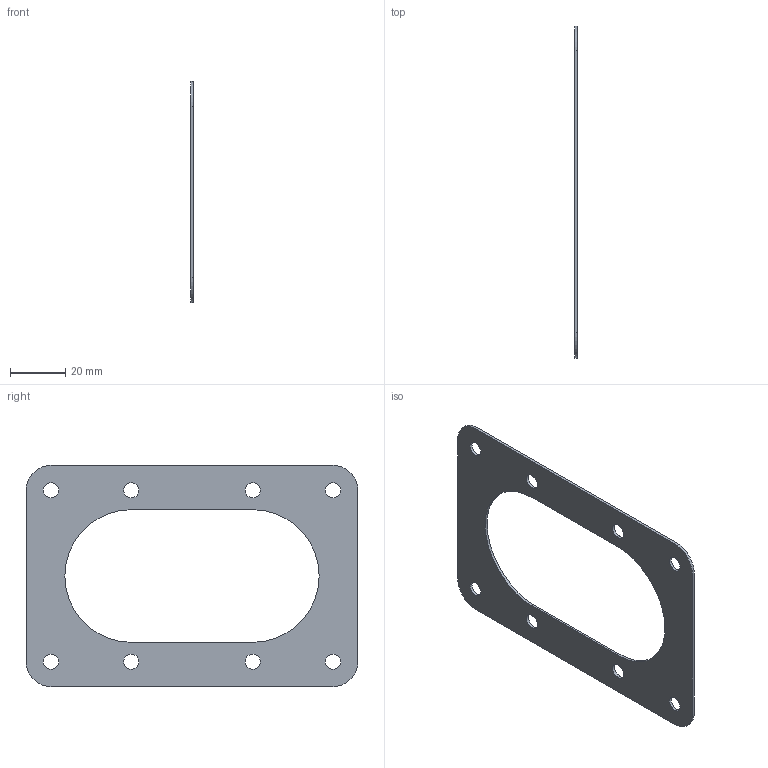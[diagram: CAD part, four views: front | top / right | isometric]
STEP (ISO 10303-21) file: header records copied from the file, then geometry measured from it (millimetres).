
FILE_DESCRIPTION(/* description */ (''),/* implementation_level */ '2;1');
FILE_NAME(/* name */ '',/* time_stamp */ '2026-09-29T15:29:47+09:00',/* author */ ('jhkim'),/* organization */ (''),/* preprocessor_version */ 'ST-DEVELOPER v20.1',/* originating_system */ 'Autodesk Inventor 2027',/* authorisation */ '');
FILE_SCHEMA (('AUTOMOTIVE_DESIGN { 1 0 10303 214 3 1 1 }'));
Length unit declared in the file: millimetre
Products named in the file (1): 개스킷
Bounding box: 1 x 120 x 80 mm (x, y, z)
Volume: 5418.8 mm3; surface area: 11599.3 mm2
Topology: 1 solids, 1 shells, 22 faces, 60 edges, 40 vertices
Faces by surface type: cylinder 14, plane 8
Full cylindrical faces by diameter (mm): 5.5 x8
Entity records: 791 total; most frequent: DIRECTION 134, CARTESIAN_POINT 123, ORIENTED_EDGE 120, EDGE_CURVE 60, AXIS2_PLACEMENT_3D 51, EDGE_LOOP 40, VERTEX_POINT 40, LINE 32
